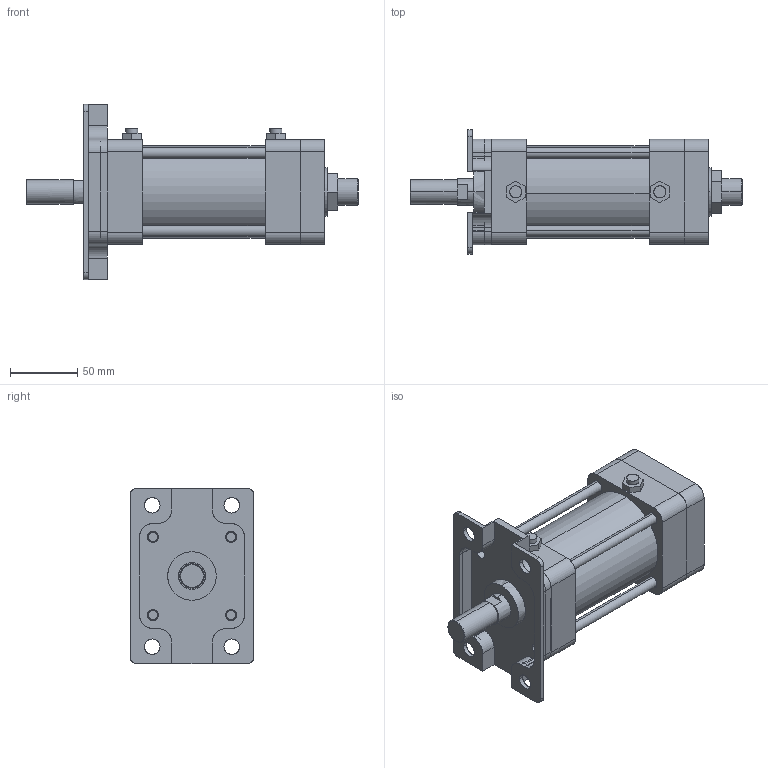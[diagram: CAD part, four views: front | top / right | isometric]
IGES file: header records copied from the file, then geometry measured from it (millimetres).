
Start section: SolidWorks IGES file using analytic representation for surfaces
Global section: file name: C:\Users\Toshiba\Desktop\KGA2-63#-50-A.IGS; native system: SolidWorks 2014; preprocessor: SolidWorks 2014; author: Toshiba; date: 160414.154050; units: millimetre
Bounding box: 246.5 x 92 x 130 mm (x, y, z)
Surface area: 172519.7 mm2 (no closed solid volume)
Topology: 0 solids, 0 shells, 422 faces, 7012 edges, 7008 vertices
Faces by surface type: bspline 220, revolution 202
